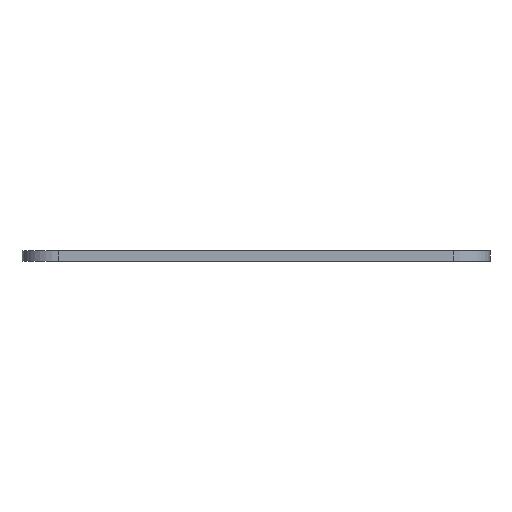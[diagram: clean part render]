
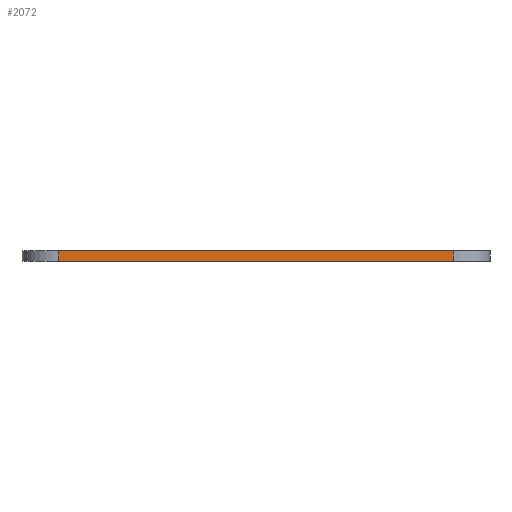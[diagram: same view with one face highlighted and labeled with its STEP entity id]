
A CAD part, left-side view. The second image highlights one B-rep face of the part: STEP entity #2072.
In plain terms, the highlighted planar face has unit normal (-1, 0, 0).
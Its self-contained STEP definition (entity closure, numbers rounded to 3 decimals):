
#220=FACE_OUTER_BOUND('',#342,.T.);
#342=EDGE_LOOP('',(#1823,#1824,#1825,#1826));
#475=LINE('',#3050,#715);
#480=LINE('',#3062,#720);
#518=LINE('',#3189,#758);
#593=LINE('',#3379,#833);
#715=VECTOR('',#2469,10.);
#720=VECTOR('',#2480,10.);
#758=VECTOR('',#2580,10.);
#833=VECTOR('',#2791,10.);
#912=VERTEX_POINT('',#3047);
#913=VERTEX_POINT('',#3049);
#917=VERTEX_POINT('',#3061);
#975=VERTEX_POINT('',#3187);
#1144=EDGE_CURVE('',#912,#913,#475,.T.);
#1150=EDGE_CURVE('',#913,#917,#480,.T.);
#1214=EDGE_CURVE('',#917,#975,#518,.T.);
#1309=EDGE_CURVE('',#975,#912,#593,.T.);
#1823=ORIENTED_EDGE('',*,*,#1144,.F.);
#1824=ORIENTED_EDGE('',*,*,#1309,.F.);
#1825=ORIENTED_EDGE('',*,*,#1214,.F.);
#1826=ORIENTED_EDGE('',*,*,#1150,.F.);
#1966=PLANE('',#2241);
#2072=ADVANCED_FACE('',(#220),#1966,.T.);
#2241=AXIS2_PLACEMENT_3D('',#3378,#2789,#2790);
#2469=DIRECTION('',(0.,0.,-1.));
#2480=DIRECTION('',(0.,1.,0.));
#2580=DIRECTION('',(0.,0.,1.));
#2789=DIRECTION('center_axis',(-1.,0.,0.));
#2790=DIRECTION('ref_axis',(0.,-1.,0.));
#2791=DIRECTION('',(0.,-1.,0.));
#3047=CARTESIAN_POINT('',(-13.055,-47.283,1.5));
#3049=CARTESIAN_POINT('',(-13.055,-47.283,0.));
#3050=CARTESIAN_POINT('',(-13.055,-47.283,0.));
#3061=CARTESIAN_POINT('',(-13.055,6.579,0.));
#3062=CARTESIAN_POINT('',(-13.055,-52.283,0.));
#3187=CARTESIAN_POINT('',(-13.055,6.579,1.5));
#3189=CARTESIAN_POINT('',(-13.055,6.579,0.));
#3378=CARTESIAN_POINT('Origin',(-13.055,11.579,0.));
#3379=CARTESIAN_POINT('',(-13.055,-52.283,1.5));
